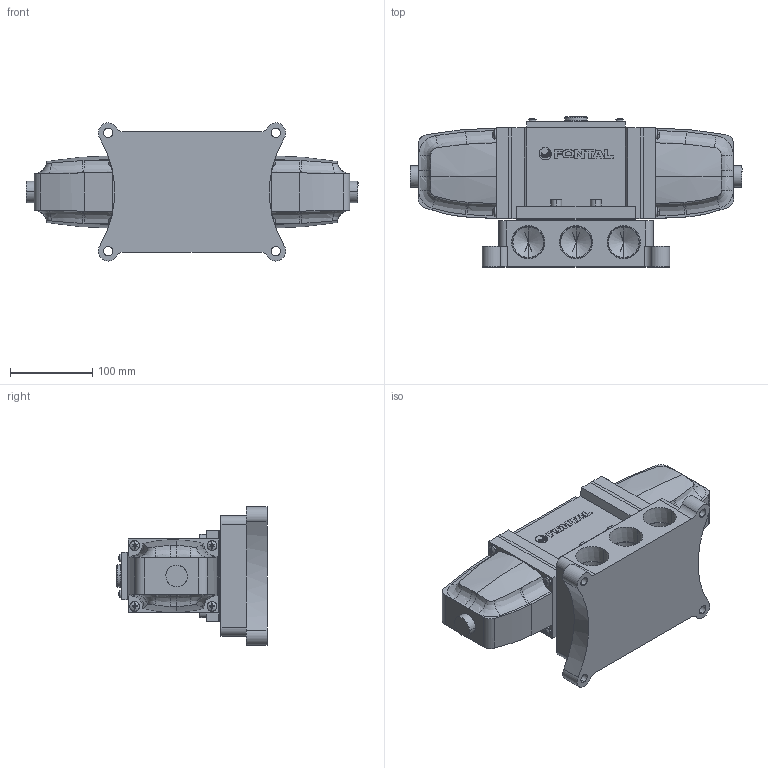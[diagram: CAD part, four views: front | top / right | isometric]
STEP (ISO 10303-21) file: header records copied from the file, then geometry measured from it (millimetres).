
FILE_DESCRIPTION (( 'STEP AP203' ), '1' );
FILE_NAME ('AD2425-10-##.STEP', '2016-03-09T03:27:34', ( 'Sam Lin' ), ( '' ), 'SwSTEP 2.0', 'SolidWorks 2013', '' );
FILE_SCHEMA (( 'CONFIG_CONTROL_DESIGN' ));
Length unit declared in the file: metre
Products named in the file (12): ISO 7045 - M6 x 20; AS2310-4; AS2425-4; AS2425-5; ISO 4762 M8 x 30; AS2425-1; AS2425-10; A25-MARK-2415; ISO 7045 - M5 x 16; AS2325-2; AD2425-10-##; AS2325-3
Assembly tree (26 placements, depth 2):
  AD2425-10-##
    AS2425-1
    A25-MARK-2415
    AS2325-2  x2
    AS2325-3  x2
    ISO 7045 - M6 x 20  x8
    AS2310-4
    AS2425-4
    AS2425-5
    ISO 4762 M8 x 30  x4
    AS2425-10
    ISO 7045 - M5 x 16  x4
Bounding box: 403.8 x 182.5 x 167.99 mm (x, y, z)
Volume: 4521670.4 mm3; surface area: 430724.4 mm2
Topology: 32 solids, 32 shells, 878 faces, 2198 edges, 1377 vertices
Faces by surface type: plane 443, cylinder 185, bspline 126, cone 108, torus 16
Entity records: 15988 total; most frequent: CARTESIAN_POINT 5079, ORIENTED_EDGE 1946, DIRECTION 1853, EDGE_CURVE 973, AXIS2_PLACEMENT_3D 661, VERTEX_POINT 632, LINE 531, VECTOR 531
